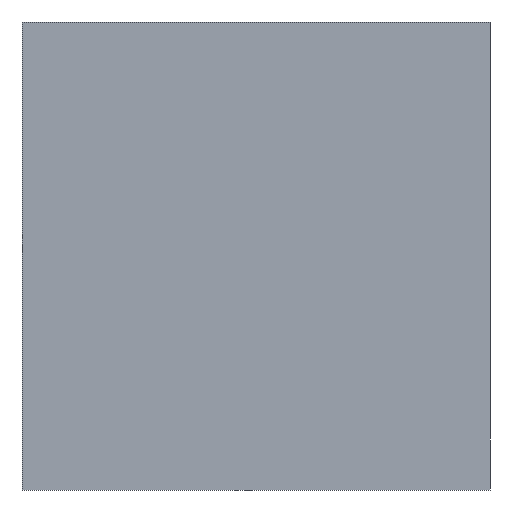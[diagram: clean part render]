
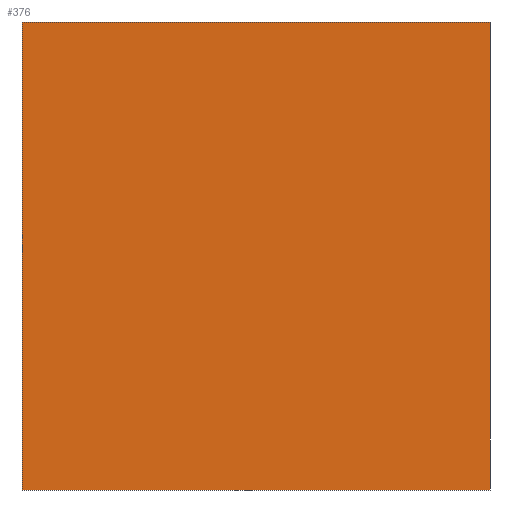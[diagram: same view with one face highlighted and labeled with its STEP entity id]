
A CAD part, front view. The second image highlights one B-rep face of the part: STEP entity #376.
In plain terms, the highlighted planar face has unit normal (0, -1, 0).
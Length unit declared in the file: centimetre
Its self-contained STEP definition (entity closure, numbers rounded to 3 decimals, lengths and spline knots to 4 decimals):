
#1 = VECTOR ( 'NONE', #580, 100. ) ;
#2 = DIRECTION ( 'NONE',  ( 1., 0., 0. ) ) ;
#7 = VERTEX_POINT ( 'NONE', #268 ) ;
#30 = CARTESIAN_POINT ( 'NONE',  ( 1000., 0., 1000. ) ) ;
#58 = LINE ( 'NONE', #604, #176 ) ;
#72 = ORIENTED_EDGE ( 'NONE', *, *, #427, .T. ) ;
#73 = VERTEX_POINT ( 'NONE', #30 ) ;
#135 = DIRECTION ( 'NONE',  ( 0., 0., -1. ) ) ;
#150 = VERTEX_POINT ( 'NONE', #416 ) ;
#174 = ORIENTED_EDGE ( 'NONE', *, *, #349, .T. ) ;
#176 = VECTOR ( 'NONE', #233, 100. ) ;
#202 = AXIS2_PLACEMENT_3D ( 'NONE', #315, #203, #701 ) ;
#203 = DIRECTION ( 'NONE',  ( 0., 1., 0. ) ) ;
#233 = DIRECTION ( 'NONE',  ( 0., 0., -1. ) ) ;
#268 = CARTESIAN_POINT ( 'NONE',  ( 0., 0., 0. ) ) ;
#295 = CARTESIAN_POINT ( 'NONE',  ( 0., 0., 1000. ) ) ;
#315 = CARTESIAN_POINT ( 'NONE',  ( 0., 0., 1000. ) ) ;
#349 = EDGE_CURVE ( 'NONE', #714, #7, #633, .T. ) ;
#363 = ORIENTED_EDGE ( 'NONE', *, *, #444, .F. ) ;
#376 = ADVANCED_FACE ( 'NONE', ( #482 ), #693, .F. ) ;
#398 = CARTESIAN_POINT ( 'NONE',  ( 0., 0., 0. ) ) ;
#416 = CARTESIAN_POINT ( 'NONE',  ( 1000., 0., 0. ) ) ;
#427 = EDGE_CURVE ( 'NONE', #7, #150, #561, .T. ) ;
#428 = CARTESIAN_POINT ( 'NONE',  ( 0., 0., 1000. ) ) ;
#430 = ORIENTED_EDGE ( 'NONE', *, *, #579, .F. ) ;
#438 = VECTOR ( 'NONE', #135, 100. ) ;
#444 = EDGE_CURVE ( 'NONE', #73, #150, #58, .T. ) ;
#469 = LINE ( 'NONE', #295, #1 ) ;
#482 = FACE_OUTER_BOUND ( 'NONE', #514, .T. ) ;
#514 = EDGE_LOOP ( 'NONE', ( #72, #363, #430, #174 ) ) ;
#561 = LINE ( 'NONE', #398, #563 ) ;
#563 = VECTOR ( 'NONE', #2, 100. ) ;
#579 = EDGE_CURVE ( 'NONE', #714, #73, #469, .T. ) ;
#580 = DIRECTION ( 'NONE',  ( 1., 0., 0. ) ) ;
#604 = CARTESIAN_POINT ( 'NONE',  ( 1000., 0., 1000. ) ) ;
#633 = LINE ( 'NONE', #428, #438 ) ;
#686 = CARTESIAN_POINT ( 'NONE',  ( 0., 0., 1000. ) ) ;
#693 = PLANE ( 'NONE',  #202 ) ;
#701 = DIRECTION ( 'NONE',  ( 0., 0., 1. ) ) ;
#714 = VERTEX_POINT ( 'NONE', #686 ) ;
